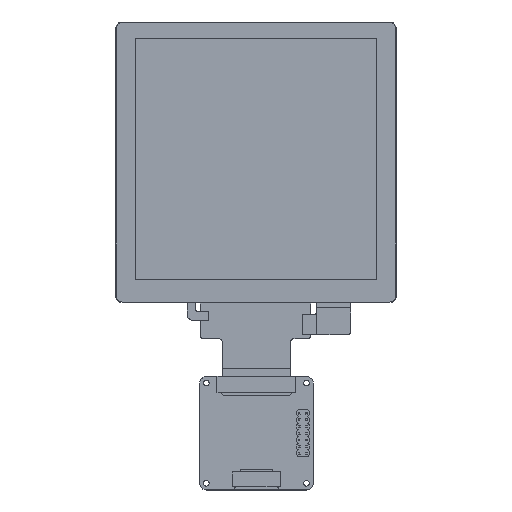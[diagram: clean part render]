
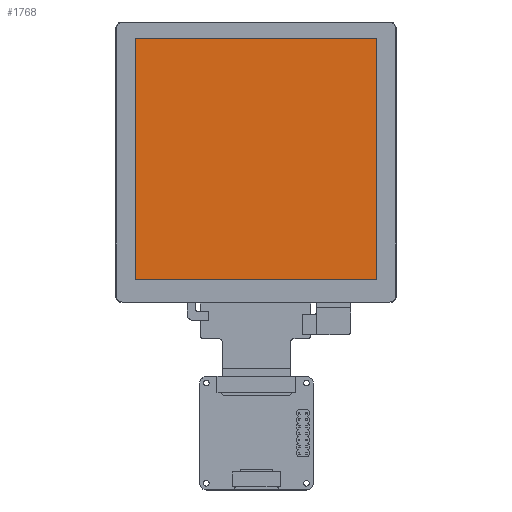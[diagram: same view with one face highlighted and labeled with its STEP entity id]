
A CAD part, top view. The second image highlights one B-rep face of the part: STEP entity #1768.
In plain terms, the highlighted planar face has unit normal (0, 0, 1).
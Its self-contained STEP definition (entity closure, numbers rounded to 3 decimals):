
#1239=DIRECTION('',(0.,1.,0.));
#1240=VECTOR('',#1239,71.93);
#1241=CARTESIAN_POINT('',(-35.965,-33.89,2.59));
#1242=LINE('',#1241,#1240);
#1243=DIRECTION('',(-1.,0.,0.));
#1244=VECTOR('',#1243,71.93);
#1245=CARTESIAN_POINT('',(35.965,-33.89,2.59));
#1246=LINE('',#1245,#1244);
#1247=DIRECTION('',(0.,-1.,0.));
#1248=VECTOR('',#1247,71.93);
#1249=CARTESIAN_POINT('',(35.965,38.04,2.59));
#1250=LINE('',#1249,#1248);
#1251=DIRECTION('',(1.,0.,0.));
#1252=VECTOR('',#1251,71.93);
#1253=CARTESIAN_POINT('',(-35.965,38.04,2.59));
#1254=LINE('',#1253,#1252);
#1327=CARTESIAN_POINT('',(-35.965,-33.89,2.59));
#1328=CARTESIAN_POINT('',(-35.965,38.04,2.59));
#1329=VERTEX_POINT('',#1327);
#1330=VERTEX_POINT('',#1328);
#1331=CARTESIAN_POINT('',(35.965,38.04,2.59));
#1332=VERTEX_POINT('',#1331);
#1333=CARTESIAN_POINT('',(35.965,-33.89,2.59));
#1334=VERTEX_POINT('',#1333);
#1757=CARTESIAN_POINT('',(0.005,1.08,2.59));
#1758=DIRECTION('',(0.,0.,1.));
#1759=DIRECTION('',(1.,0.,0.));
#1760=AXIS2_PLACEMENT_3D('',#1757,#1758,#1759);
#1761=PLANE('',#1760);
#1762=ORIENTED_EDGE('',*,*,#1739,.T.);
#1763=ORIENTED_EDGE('',*,*,#1745,.T.);
#1764=ORIENTED_EDGE('',*,*,#1743,.T.);
#1765=ORIENTED_EDGE('',*,*,#1741,.T.);
#1766=EDGE_LOOP('',(#1762,#1763,#1764,#1765));
#1767=FACE_OUTER_BOUND('',#1766,.F.);
#1739=EDGE_CURVE('',#1329,#1330,#1242,.T.);
#1741=EDGE_CURVE('',#1334,#1329,#1246,.T.);
#1743=EDGE_CURVE('',#1332,#1334,#1250,.T.);
#1745=EDGE_CURVE('',#1330,#1332,#1254,.T.);
#1768=ADVANCED_FACE('',(#1767),#1761,.T.);
